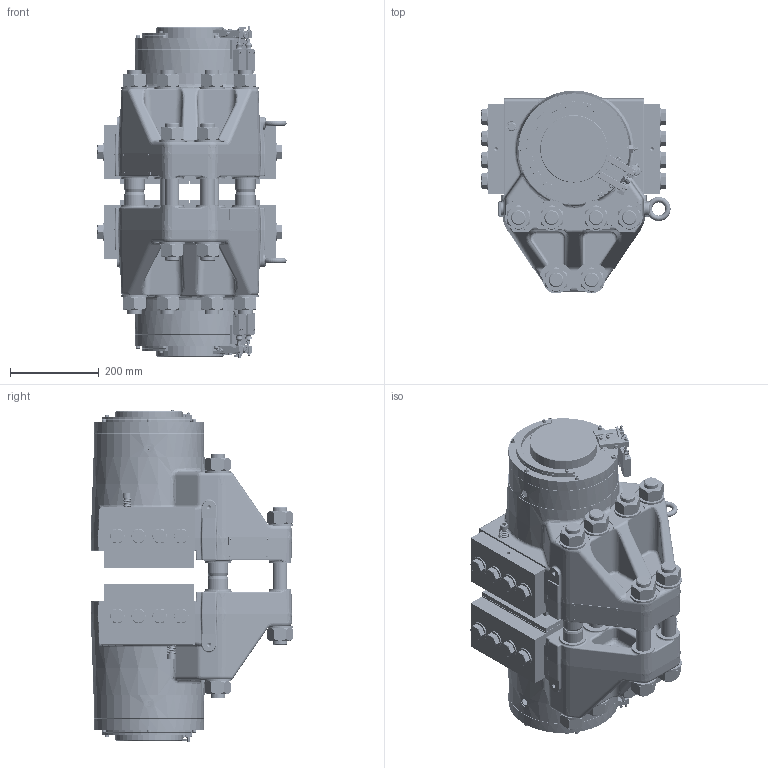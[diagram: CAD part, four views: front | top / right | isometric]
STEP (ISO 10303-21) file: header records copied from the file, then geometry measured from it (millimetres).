
FILE_DESCRIPTION((''),'2;1');
FILE_NAME('HW_165_FHM_420','2020-10-08T',('BOLS'),(''),'CREO PARAMETRIC BY PTC INC, 2018360','CREO PARAMETRIC BY PTC INC, 2018360','');
FILE_SCHEMA(('CONFIG_CONTROL_DESIGN'));
Products named in the file (1): HW_165_FHM_420
Bounding box: 426.5 x 456.7 x 748.39 mm (x, y, z)
Volume: 31768496.2 mm3; surface area: 3114255.2 mm2
Topology: 7 solids, 99 shells, 4433 faces, 10785 edges, 6654 vertices
Faces by surface type: plane 1626, cylinder 1356, cone 842, bspline 316, torus 238, sphere 47, revolution 8
Entity records: 232653 total; most frequent: CARTESIAN_POINT 98774, ORIENTED_EDGE 21210, DIRECTION 21124, PRESENTATION_STYLE_ASSIGNMENT 10612, STYLED_ITEM 10612, CURVE_STYLE 10605, EDGE_CURVE 10605, AXIS2_PLACEMENT_3D 8295
